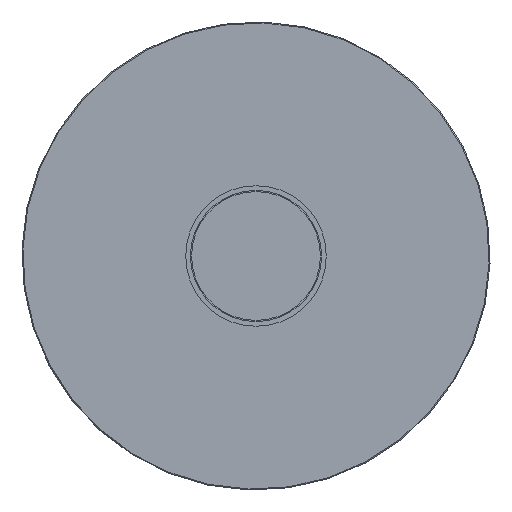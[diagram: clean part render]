
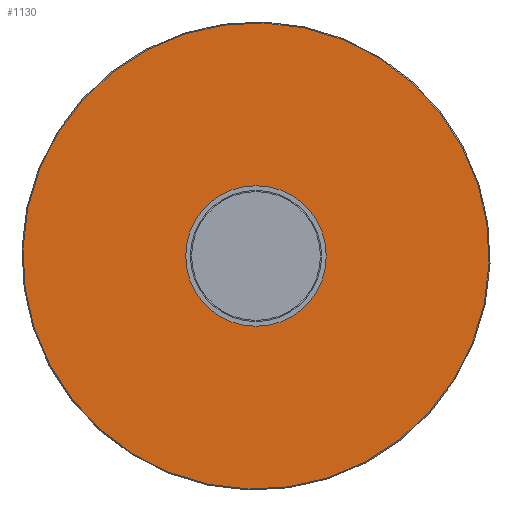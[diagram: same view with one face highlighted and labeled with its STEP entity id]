
A CAD part, front view. The second image highlights one B-rep face of the part: STEP entity #1130.
In plain terms, the highlighted planar face has unit normal (0, -1, 0).
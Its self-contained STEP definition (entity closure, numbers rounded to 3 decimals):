
#9 = CARTESIAN_POINT ( 'NONE',  ( 0., 0., 0. ) ) ;
#21 = DIRECTION ( 'NONE',  ( 0.034, 0., 0.999 ) ) ;
#59 = AXIS2_PLACEMENT_3D ( 'NONE', #551, #1077, #984 ) ;
#72 = VERTEX_POINT ( 'NONE', #140 ) ;
#101 = PLANE ( 'NONE',  #827 ) ;
#114 = DIRECTION ( 'NONE',  ( 0., 0., -1. ) ) ;
#120 = ORIENTED_EDGE ( 'NONE', *, *, #975, .T. ) ;
#140 = CARTESIAN_POINT ( 'NONE',  ( -5.397, 0., 1.494 ) ) ;
#153 = VERTEX_POINT ( 'NONE', #1045 ) ;
#157 = CIRCLE ( 'NONE', #659, 5.6 ) ;
#169 = DIRECTION ( 'NONE',  ( 0., -1., 0. ) ) ;
#178 = CARTESIAN_POINT ( 'NONE',  ( 0., 0., 0. ) ) ;
#188 = CARTESIAN_POINT ( 'NONE',  ( 5.397, 0., -1.494 ) ) ;
#207 = CARTESIAN_POINT ( 'NONE',  ( 0., 0., 0. ) ) ;
#220 = ORIENTED_EDGE ( 'NONE', *, *, #1082, .F. ) ;
#292 = DIRECTION ( 'NONE',  ( 0.034, 0., 0.999 ) ) ;
#293 = EDGE_LOOP ( 'NONE', ( #120, #1091 ) ) ;
#302 = CARTESIAN_POINT ( 'NONE',  ( 0., 0., 0. ) ) ;
#308 = AXIS2_PLACEMENT_3D ( 'NONE', #207, #646, #114 ) ;
#324 = CIRCLE ( 'NONE', #540, 49.8 ) ;
#350 = EDGE_CURVE ( 'NONE', #419, #72, #157, .T. ) ;
#419 = VERTEX_POINT ( 'NONE', #188 ) ;
#446 = CARTESIAN_POINT ( 'NONE',  ( 1.68, 0., 49.772 ) ) ;
#540 = AXIS2_PLACEMENT_3D ( 'NONE', #9, #550, #21 ) ;
#550 = DIRECTION ( 'NONE',  ( 0., -1., 0. ) ) ;
#551 = CARTESIAN_POINT ( 'NONE',  ( 0., 0., 0. ) ) ;
#573 = ORIENTED_EDGE ( 'NONE', *, *, #350, .F. ) ;
#617 = EDGE_LOOP ( 'NONE', ( #220, #573 ) ) ;
#641 = DIRECTION ( 'NONE',  ( 0., -1., 0. ) ) ;
#644 = VERTEX_POINT ( 'NONE', #446 ) ;
#646 = DIRECTION ( 'NONE',  ( 0., -1., 0. ) ) ;
#656 = FACE_BOUND ( 'NONE', #617, .T. ) ;
#659 = AXIS2_PLACEMENT_3D ( 'NONE', #178, #169, #785 ) ;
#708 = CIRCLE ( 'NONE', #308, 5.6 ) ;
#785 = DIRECTION ( 'NONE',  ( 0., 0., -1. ) ) ;
#827 = AXIS2_PLACEMENT_3D ( 'NONE', #302, #641, #292 ) ;
#863 = FACE_OUTER_BOUND ( 'NONE', #293, .T. ) ;
#966 = CIRCLE ( 'NONE', #59, 49.8 ) ;
#975 = EDGE_CURVE ( 'NONE', #153, #644, #966, .T. ) ;
#984 = DIRECTION ( 'NONE',  ( 0.034, 0., 0.999 ) ) ;
#1045 = CARTESIAN_POINT ( 'NONE',  ( -1.68, 0., -49.772 ) ) ;
#1077 = DIRECTION ( 'NONE',  ( 0., -1., 0. ) ) ;
#1082 = EDGE_CURVE ( 'NONE', #72, #419, #708, .T. ) ;
#1091 = ORIENTED_EDGE ( 'NONE', *, *, #1110, .T. ) ;
#1110 = EDGE_CURVE ( 'NONE', #644, #153, #324, .T. ) ;
#1130 = ADVANCED_FACE ( 'NONE', ( #656, #863 ), #101, .T. ) ;
